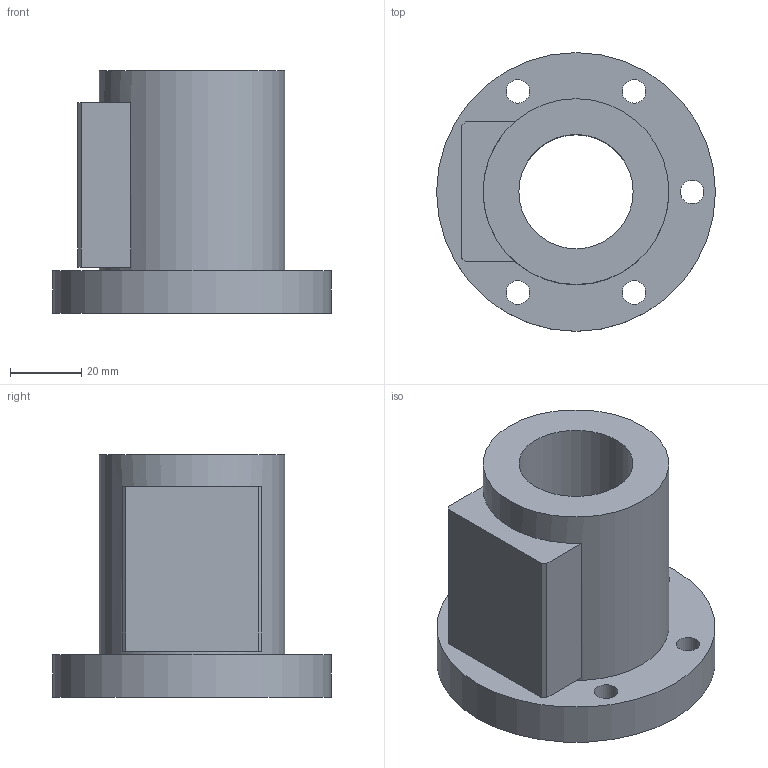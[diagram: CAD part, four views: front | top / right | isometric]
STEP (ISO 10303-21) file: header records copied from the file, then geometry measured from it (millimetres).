
FILE_DESCRIPTION(/* description */ (''),/* implementation_level */ '2;1');
FILE_NAME(/* name */ '32-6B2',/* time_stamp */ '2006-07-31T09:59:18+08:00',/* author */ (''),/* organization */ (''),/* preprocessor_version */ 'ST-DEVELOPER v9',/* originating_system */ 'UGS - NX 4.0',/* authorisation */ '');
FILE_SCHEMA (('CONFIG_CONTROL_DESIGN'));
Length unit declared in the file: millimetre
Products named in the file (1): 32-6B2
Bounding box: 78 x 78 x 68 mm (x, y, z)
Volume: 133114.8 mm3; surface area: 29974.5 mm2
Topology: 1 solids, 1 shells, 28 faces, 61 edges, 42 vertices
Faces by surface type: plane 15, cylinder 13
Full cylindrical faces by diameter (mm): 6.6 x5, 11 x5, 32 x1, 52 x1, 78 x1
Entity records: 794 total; most frequent: DIRECTION 130, CARTESIAN_POINT 111, ORIENTED_EDGE 88, EDGE_LOOP 60, AXIS2_PLACEMENT_3D 57, FACE_BOUND 45, EDGE_CURVE 44, VERTEX_POINT 38
